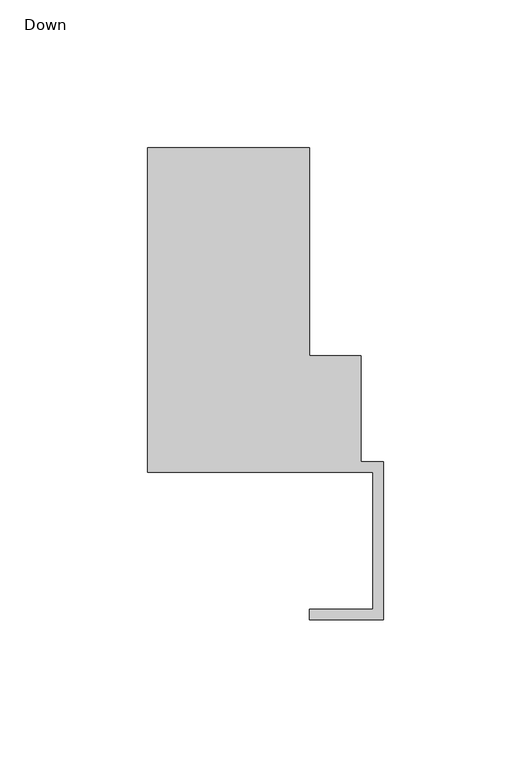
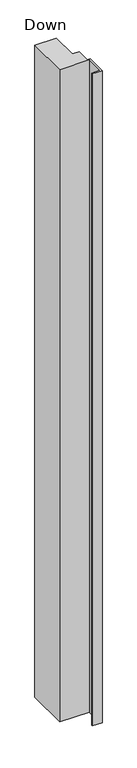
"""IFC4 building model written with IfcOpenShell, lengths in millimetres: member geometry, 長方形マリオン : Down."""

from ifc_helpers import new_model, si_unit, frame, origin, place, context, project, spatial, polyline, outline, extrude, source, transform, mapped, element, save


def down_4757ce99(model_context):
    return source(origin(), model_context, "Body", "SweptSolid", [
        extrude(outline(polyline([(-80.0, 136.0040267), (-25.0, 136.0040267), (-25.0, 65.5039342), (-7.5, 65.5039342), (-7.5, 29.5039342), (0.0, 29.5039342), (0.0, -23.9960658), (-25.0, -23.9960658), (-25.0, -20.4960658), (-3.5, -20.4960658), (-3.5, 26.0039342), (-80.0, 26.0039342), (-80.0, 136.0040267)])), frame((0.0, 0.0, -1769.7668973), z_axis=(0.0, 0.0, 1.0), x_axis=(1.0, 0.0, 0.0)), (0.0, 0.0, 1.0), 1769.7668973),
    ])


if __name__ == "__main__":
    model = new_model("IFC4")
    model_context = context("Model", 3, world=origin())
    ifc_project = project(units=[si_unit("LENGTHUNIT", "METRE", prefix="MILLI")], contexts=[model_context])
    site = spatial("IfcSite", under=ifc_project)
    building = spatial("IfcBuilding", under=site)
    placement = place(None, origin())
    down_shape = down_4757ce99(model_context)
    element("IfcMember", 1, ObjectType="長方形マリオン : Down", at=placement, inside=building, context=model_context, shape_type="MappedRepresentation", body=[
        mapped(down_shape, transform((0.0, 0.0, 0.0), x_axis=(1.0, 0.0, 0.0), y_axis=(0.0, 1.0, 0.0), z_axis=(0.0, 0.0, 1.0))),
    ])
    save(model, "model.ifc")
